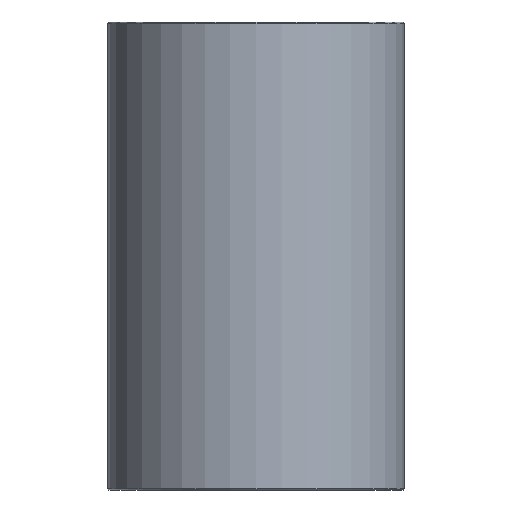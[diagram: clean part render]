
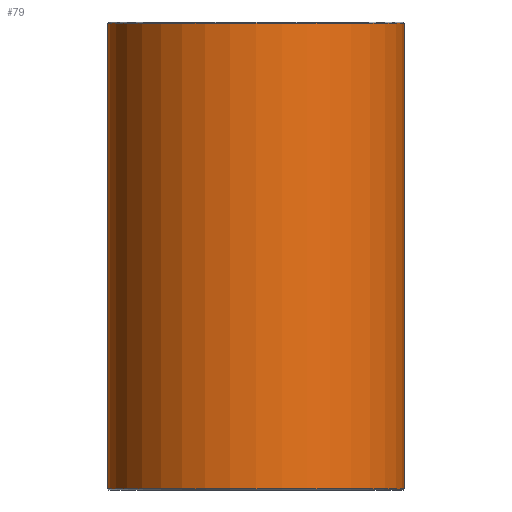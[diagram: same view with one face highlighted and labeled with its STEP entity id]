
A CAD part, front view. The second image highlights one B-rep face of the part: STEP entity #79.
In plain terms, the highlighted cylindrical face has radius 20 mm (diameter 40 mm), a full revolution.
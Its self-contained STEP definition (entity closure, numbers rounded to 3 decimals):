
#79=ADVANCED_FACE('',(#96,#97),#98,.T.);
#96=FACE_OUTER_BOUND('',#120,.T.);
#97=FACE_OUTER_BOUND('',#121,.T.);
#98=CYLINDRICAL_SURFACE('',#122,20.0);
#120=EDGE_LOOP('',(#152));
#121=EDGE_LOOP('',(#153));
#122=AXIS2_PLACEMENT_3D('',#154,#155,#156);
#152=ORIENTED_EDGE('',*,*,#178,.T.);
#153=ORIENTED_EDGE('',*,*,#177,.T.);
#154=CARTESIAN_POINT('',(0.,0.0,63.0));
#155=DIRECTION('',(0.0,0.0,-1.0));
#156=DIRECTION('',(-1.0,0.0,0.0));
#177=EDGE_CURVE('',#190,#190,#191,.T.);
#178=EDGE_CURVE('',#192,#192,#193,.F.);
#190=VERTEX_POINT('',#206);
#191=CIRCLE('',#207,20.0);
#192=VERTEX_POINT('',#208);
#193=CIRCLE('',#209,20.0);
#206=CARTESIAN_POINT('',(20.0,0.0,0.2));
#207=AXIS2_PLACEMENT_3D('',#227,#228,#229);
#208=CARTESIAN_POINT('',(20.0,0.,62.8));
#209=AXIS2_PLACEMENT_3D('',#230,#231,#232);
#227=CARTESIAN_POINT('',(0.,0.0,0.2));
#228=DIRECTION('',(0.0,0.0,1.0));
#229=DIRECTION('',(1.0,0.0,0.0));
#230=CARTESIAN_POINT('',(0.,0.0,62.8));
#231=DIRECTION('',(0.0,0.0,1.0));
#232=DIRECTION('',(1.0,0.0,0.0));
